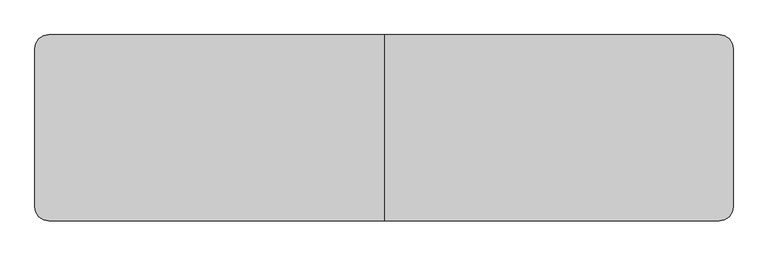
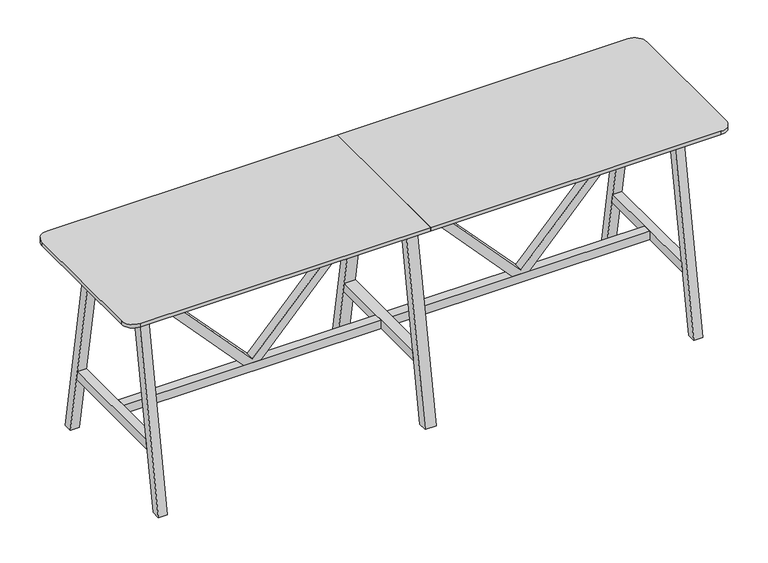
"""IFC4 building model written with IfcOpenShell, lengths in millimetres: furniture geometry, BDG_BossDesign_Tbls_AgentTables6Legs : AGE-HT-6L-3000-800-3D."""

from ifc_helpers import new_model, si_unit, point, frame, frame_2d, origin, place, context, project, spatial, polyline, circle_curve, trimmed, segment, composite_curve, outline, extrude, source, transform, mapped, element, save


def furniture_e9dce342(model_context):
    return source(origin(), model_context, "Body", "SweptSolid", [
        extrude(outline(polyline([(345.0, 624.0823957), (345.0, 708.4176043), (992.0, 1305.0), (1032.0, 1305.0), (1032.0, 1285.0), (365.0, 666.25), (1032.0, 47.5), (1032.0, 27.5), (992.0, 27.5), (345.0, 624.0823957)])), frame((0.0, -22.5000305, 0.0), z_axis=(0.0, 1.0, 0.0), x_axis=(0.0, 0.0, 1.0)), (0.0, 0.0, 1.0), 45.000061),
        extrude(outline(polyline([(345.0, -624.0823957), (992.0, -27.5), (1032.0, -27.5), (1032.0, -47.5), (365.0, -666.25), (1032.0, -1285.0), (1032.0, -1305.0), (992.0, -1305.0), (345.0, -708.4176043), (345.0, -624.0823957)])), frame((0.0, -22.5000305, 0.0), z_axis=(0.0, 1.0, 0.0), x_axis=(0.0, 0.0, 1.0)), (0.0, 0.0, 1.0), 45.000061),
        extrude(outline(polyline([(400.0, 0.0), (354.9999949, 0.0), (185.5, 970.0), (230.5000051, 970.0), (400.0, 0.0)])), frame((-27.5, 0.0, 0.0), z_axis=(1.0, 0.0, 0.0), x_axis=(0.0, 1.0, 0.0)), (0.0, 0.0, 1.0), 55.0),
        extrude(outline(polyline([(-400.0, 0.0), (-230.5000051, 970.0), (-185.5, 970.0), (-354.9999949, 0.0), (-400.0, 0.0)])), frame((-27.5, 0.0, 0.0), z_axis=(1.0, 0.0, 0.0), x_axis=(0.0, 1.0, 0.0)), (0.0, 0.0, 1.0), 55.0),
        extrude(outline(polyline([(302.5773161, 300.0), (-302.5773161, 300.0), (-294.7139143, 345.0), (294.7139143, 345.0), (302.5773161, 300.0)])), frame((-27.5, 0.0, 0.0), z_axis=(1.0, 0.0, 0.0), x_axis=(0.0, 1.0, 0.0)), (0.0, 0.0, 1.0), 55.0),
        extrude(outline(composite_curve([segment(polyline([(0.0, 400.0), (0.0, -400.0), (-1440.0, -400.0)]), True, "CONTINUOUS"), segment(trimmed(circle_curve(frame_2d((-1440.0, -340.0)), 60.0), [point((-1440.0, -400.0))], [point((-1500.0, -340.0))], False, "CARTESIAN"), True, "CONTINUOUS"), segment(polyline([(-1500.0, -340.0), (-1500.0, 340.0)]), True, "CONTINUOUS"), segment(trimmed(circle_curve(frame_2d((-1440.0, 340.0)), 60.0), [point((-1500.0, 340.0))], [point((-1440.0, 400.0))], False, "CARTESIAN"), True, "CONTINUOUS"), segment(polyline([(-1440.0, 400.0), (0.0, 400.0)]), True, "CONTINUOUS")], self_intersect=False)), frame((0.0, 0.0, 1032.0), z_axis=(0.0, 0.0, 1.0), x_axis=(1.0, 0.0, 0.0)), (0.0, 0.0, 1.0), 18.0),
        extrude(outline(polyline([(-294.7139143, 345.0), (294.7139143, 345.0), (302.5773161, 300.0), (-302.5773161, 300.0), (-294.7139143, 345.0)])), frame((1305.0, 0.0, 0.0), z_axis=(1.0, 0.0, 0.0), x_axis=(0.0, 1.0, 0.0)), (0.0, 0.0, 1.0), 45.0),
        extrude(outline(polyline([(400.0, 0.0), (354.9999949, 0.0), (185.5, 970.0), (230.5000051, 970.0), (400.0, 0.0)])), frame((-1350.0, 0.0, 0.0), z_axis=(1.0, 0.0, 0.0), x_axis=(0.0, 1.0, 0.0)), (0.0, 0.0, 1.0), 45.0),
        extrude(outline(polyline([(-400.0, 0.0), (-230.5000051, 970.0), (-185.5, 970.0), (-354.9999949, 0.0), (-400.0, 0.0)])), frame((-1350.0, 0.0, 0.0), z_axis=(1.0, 0.0, 0.0), x_axis=(0.0, 1.0, 0.0)), (0.0, 0.0, 1.0), 45.0),
        extrude(outline(polyline([(-294.7139143, 345.0), (294.7139143, 345.0), (302.5773161, 300.0), (-302.5773161, 300.0), (-294.7139143, 345.0)])), frame((-1350.0, 0.0, 0.0), z_axis=(1.0, 0.0, 0.0), x_axis=(0.0, 1.0, 0.0)), (0.0, 0.0, 1.0), 45.0),
        extrude(outline(polyline([(-226.6006165, 944.973938), (-204.2770691, 1032.0), (-179.5, 1032.0), (-201.8235474, 944.973938), (-226.6006165, 944.973938)])), frame((-1305.0, 0.0, 0.0), z_axis=(1.0, 0.0, 0.0), x_axis=(0.0, 1.0, 0.0)), (0.0, 0.0, 1.0), 2610.0),
        extrude(outline(polyline([(226.6006165, 944.973938), (201.8235474, 944.973938), (179.5, 1032.0), (204.2770691, 1032.0), (226.6006165, 944.973938)])), frame((-1305.0, 0.0, 0.0), z_axis=(1.0, 0.0, 0.0), x_axis=(0.0, 1.0, 0.0)), (0.0, 0.0, 1.0), 2610.0),
        extrude(outline(polyline([(399.7999878, 0.0), (354.7999827, 0.0), (185.5, 970.0), (230.5000051, 970.0), (399.7999878, 0.0)])), frame((1305.0, 0.0, 0.0), z_axis=(1.0, 0.0, 0.0), x_axis=(0.0, 1.0, 0.0)), (0.0, 0.0, 1.0), 45.0),
        extrude(outline(polyline([(-399.7999878, 0.0), (-230.5000051, 970.0), (-185.5, 970.0), (-354.7999827, 0.0), (-399.7999878, 0.0)])), frame((1305.0, 0.0, 0.0), z_axis=(1.0, 0.0, 0.0), x_axis=(0.0, 1.0, 0.0)), (0.0, 0.0, 1.0), 45.0),
        extrude(outline(polyline([(-27.5, 22.5000305), (-27.5, -22.5000305), (-1305.0, -22.5000305), (-1305.0, 22.5000305), (-27.5, 22.5000305)])), frame((0.0, 0.0, 300.0), z_axis=(0.0, 0.0, 1.0), x_axis=(1.0, 0.0, 0.0)), (0.0, 0.0, 1.0), 45.0),
        extrude(outline(polyline([(27.5, -22.5000305), (27.5, 22.5000305), (1305.0, 22.5000305), (1305.0, -22.5000305), (27.5, -22.5000305)])), frame((0.0, 0.0, 300.0), z_axis=(0.0, 0.0, 1.0), x_axis=(1.0, 0.0, 0.0)), (0.0, 0.0, 1.0), 45.0),
        extrude(outline(composite_curve([segment(trimmed(circle_curve(frame_2d((1440.0, 340.0)), 60.0), [point((1440.0, 400.0))], [point((1500.0, 340.0))], False, "CARTESIAN"), True, "CONTINUOUS"), segment(polyline([(1500.0, 340.0), (1500.0, -340.0)]), True, "CONTINUOUS"), segment(trimmed(circle_curve(frame_2d((1440.0, -340.0)), 60.0), [point((1500.0, -340.0))], [point((1440.0, -400.0))], False, "CARTESIAN"), True, "CONTINUOUS"), segment(polyline([(1440.0, -400.0), (0.0, -400.0), (0.0, 400.0), (1440.0, 400.0)]), True, "CONTINUOUS")], self_intersect=False)), frame((0.0, 0.0, 1032.0), z_axis=(0.0, 0.0, 1.0), x_axis=(1.0, 0.0, 0.0)), (0.0, 0.0, 1.0), 18.0),
    ])


if __name__ == "__main__":
    model = new_model("IFC4")
    model_context = context("Model", 3, world=origin())
    ifc_project = project(units=[si_unit("LENGTHUNIT", "METRE", prefix="MILLI")], contexts=[model_context])
    site = spatial("IfcSite", under=ifc_project)
    building = spatial("IfcBuilding", under=site)
    placement = place(None, origin())
    furniture_shape = furniture_e9dce342(model_context)
    element("IfcFurniture", 1, ObjectType="BDG_BossDesign_Tbls_AgentTables6Legs : AGE-HT-6L-3000-800-3D", at=placement, inside=building, context=model_context, shape_type="MappedRepresentation", body=[
        mapped(furniture_shape, transform((0.0, 0.0, 0.0), x_axis=(1.0, 0.0, 0.0), y_axis=(0.0, 1.0, 0.0), z_axis=(0.0, 0.0, 1.0))),
    ])
    save(model, "model.ifc")
